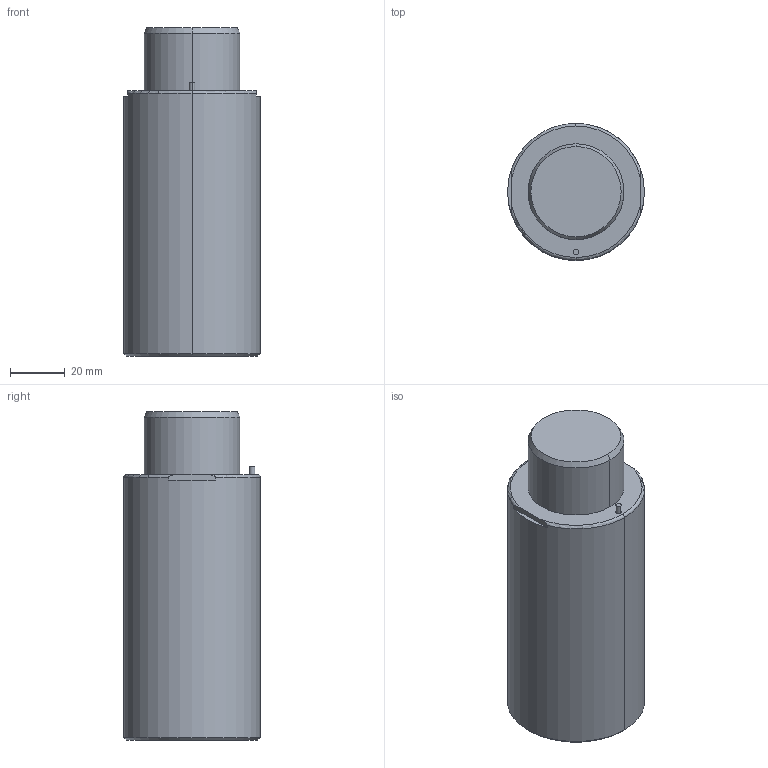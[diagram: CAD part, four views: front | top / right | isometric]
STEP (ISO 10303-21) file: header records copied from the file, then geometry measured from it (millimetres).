
FILE_DESCRIPTION(/* description */ (''),/* implementation_level */ '2;1');
FILE_NAME(/* name */ '3d_gsx50-20_03984_r00.stp',/* time_stamp */ '2011-01-10T14:15:12+09:00',/* author */ ('MISUMI'),/* organization */ (''),/* preprocessor_version */ 'ST-DEVELOPER v11',/* originating_system */ 'UGS - NX 5.0',/* authorisation */ '');
FILE_SCHEMA (('CONFIG_CONTROL_DESIGN'));
Length unit declared in the file: millimetre
Products named in the file (1): 3d_gsx50-20_03984_r00
Bounding box: 50 x 50 x 120 mm (x, y, z)
Volume: 209027.5 mm3; surface area: 23160.8 mm2
Topology: 1 solids, 1 shells, 59 faces, 130 edges, 78 vertices
Faces by surface type: cylinder 28, plane 15, cone 12, torus 4
Entity records: 1724 total; most frequent: CARTESIAN_POINT 320, DIRECTION 308, ORIENTED_EDGE 244, AXIS2_PLACEMENT_3D 130, EDGE_CURVE 122, VERTEX_POINT 78, EDGE_LOOP 72, CIRCLE 70
